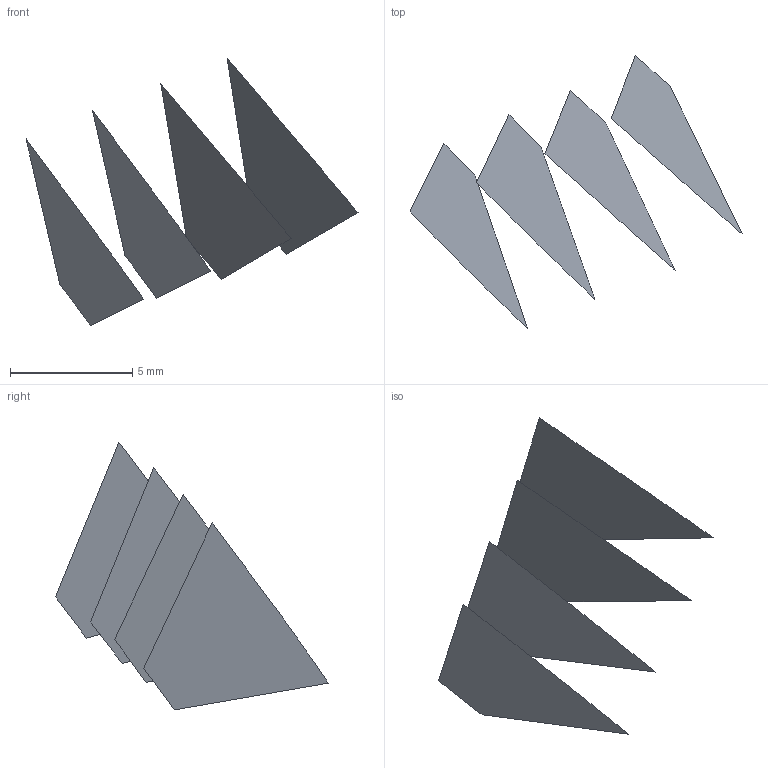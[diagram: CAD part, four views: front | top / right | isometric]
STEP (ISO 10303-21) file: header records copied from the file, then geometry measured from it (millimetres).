
FILE_DESCRIPTION(('FreeCAD Model'),'2;1');
FILE_NAME('Open CASCADE Shape Model','2022-05-22T07:50:32',('FreeCAD'),( 'FreeCAD'),'Open CASCADE STEP processor 7.5','FreeCAD','Unknown');
FILE_SCHEMA(('AUTOMOTIVE_DESIGN { 1 0 10303 214 1 1 1 1 }'));
Length unit declared in the file: millimetre
Products named in the file (5): Open CASCADE STEP translator 7.5 22; Open CASCADE STEP translator 7.5 22.1; Open CASCADE STEP translator 7.5 22.2; Open CASCADE STEP translator 7.5 22.3; Open CASCADE STEP translator 7.5 22.4
Assembly tree (4 placements, depth 2):
  Open CASCADE STEP translator 7.5 22
    Open CASCADE STEP translator 7.5 22.1
    Open CASCADE STEP translator 7.5 22.2
    Open CASCADE STEP translator 7.5 22.3
    Open CASCADE STEP translator 7.5 22.4
Bounding box: 13.59 x 11.16 x 10.96 mm (x, y, z)
Surface area: 141.8 mm2 (no closed solid volume)
Topology: 0 solids, 4 shells, 4 faces, 76 edges, 76 vertices
Faces by surface type: bspline 4
Entity records: 1116 total; most frequent: CARTESIAN_POINT 401, B_SPLINE_CURVE_WITH_KNOTS 152, ORIENTED_EDGE 76, EDGE_CURVE 76, VERTEX_POINT 76, SURFACE_CURVE 76, PCURVE 76, DEFINITIONAL_REPRESENTATION 76
